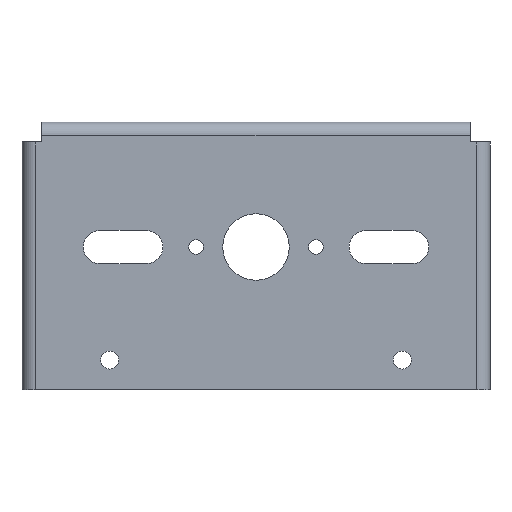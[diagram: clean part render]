
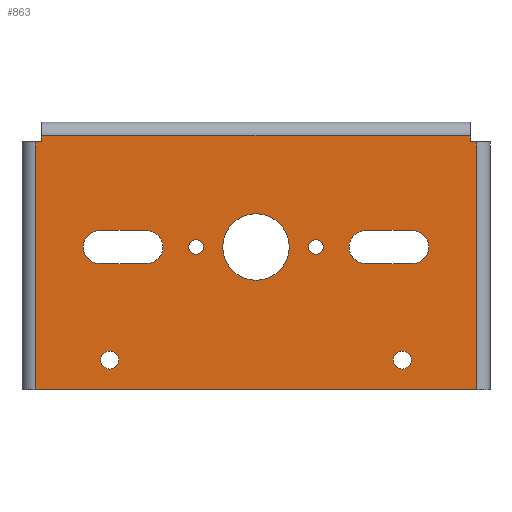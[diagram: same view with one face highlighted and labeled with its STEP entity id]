
A CAD part, left-side view. The second image highlights one B-rep face of the part: STEP entity #863.
In plain terms, the highlighted planar face has unit normal (-1, 0, 0).
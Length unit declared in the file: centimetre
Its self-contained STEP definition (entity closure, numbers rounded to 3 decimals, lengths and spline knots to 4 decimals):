
#19=FACE_BOUND('',#163,.T.);
#20=FACE_BOUND('',#164,.T.);
#21=FACE_BOUND('',#165,.T.);
#22=FACE_BOUND('',#166,.T.);
#23=FACE_BOUND('',#167,.T.);
#24=FACE_BOUND('',#168,.T.);
#25=FACE_BOUND('',#169,.T.);
#60=PLANE('',#960);
#109=FACE_OUTER_BOUND('',#162,.T.);
#162=EDGE_LOOP('',(#748,#749,#750,#751,#752,#753,#754,#755));
#163=EDGE_LOOP('',(#756,#757,#758,#759));
#164=EDGE_LOOP('',(#760));
#165=EDGE_LOOP('',(#761));
#166=EDGE_LOOP('',(#762));
#167=EDGE_LOOP('',(#763));
#168=EDGE_LOOP('',(#764));
#169=EDGE_LOOP('',(#765,#766,#767,#768));
#183=LINE('',#1232,#266);
#188=LINE('',#1246,#271);
#196=LINE('',#1286,#279);
#201=LINE('',#1300,#284);
#205=LINE('',#1314,#288);
#220=LINE('',#1350,#303);
#224=LINE('',#1361,#307);
#240=LINE('',#1402,#323);
#255=LINE('',#1438,#338);
#258=LINE('',#1443,#341);
#259=LINE('',#1444,#342);
#260=LINE('',#1445,#343);
#266=VECTOR('',#983,1.);
#271=VECTOR('',#996,1.);
#279=VECTOR('',#1042,1.);
#284=VECTOR('',#1055,1.);
#288=VECTOR('',#1069,1.);
#303=VECTOR('',#1108,1.);
#307=VECTOR('',#1116,1.);
#323=VECTOR('',#1158,1.);
#338=VECTOR('',#1197,1.);
#341=VECTOR('',#1202,1.);
#342=VECTOR('',#1203,1.);
#343=VECTOR('',#1204,1.);
#351=CIRCLE('',#890,0.25);
#353=CIRCLE('',#894,0.25);
#355=CIRCLE('',#897,0.135);
#357=CIRCLE('',#900,0.5);
#359=CIRCLE('',#903,0.135);
#361=CIRCLE('',#906,0.11);
#363=CIRCLE('',#909,0.11);
#365=CIRCLE('',#913,0.25);
#367=CIRCLE('',#917,0.25);
#385=VERTEX_POINT('',#1230);
#386=VERTEX_POINT('',#1231);
#389=VERTEX_POINT('',#1239);
#391=VERTEX_POINT('',#1245);
#393=VERTEX_POINT('',#1254);
#395=VERTEX_POINT('',#1260);
#397=VERTEX_POINT('',#1266);
#399=VERTEX_POINT('',#1272);
#401=VERTEX_POINT('',#1278);
#403=VERTEX_POINT('',#1284);
#404=VERTEX_POINT('',#1285);
#407=VERTEX_POINT('',#1293);
#409=VERTEX_POINT('',#1299);
#413=VERTEX_POINT('',#1311);
#414=VERTEX_POINT('',#1313);
#423=VERTEX_POINT('',#1349);
#427=VERTEX_POINT('',#1358);
#428=VERTEX_POINT('',#1360);
#439=VERTEX_POINT('',#1399);
#440=VERTEX_POINT('',#1401);
#449=VERTEX_POINT('',#1437);
#457=EDGE_CURVE('',#385,#386,#183,.T.);
#461=EDGE_CURVE('',#386,#389,#351,.T.);
#464=EDGE_CURVE('',#389,#391,#188,.T.);
#467=EDGE_CURVE('',#391,#385,#353,.T.);
#469=EDGE_CURVE('',#393,#393,#355,.T.);
#472=EDGE_CURVE('',#395,#395,#357,.T.);
#475=EDGE_CURVE('',#397,#397,#359,.T.);
#478=EDGE_CURVE('',#399,#399,#361,.T.);
#481=EDGE_CURVE('',#401,#401,#363,.T.);
#484=EDGE_CURVE('',#403,#404,#196,.T.);
#488=EDGE_CURVE('',#404,#407,#365,.T.);
#491=EDGE_CURVE('',#407,#409,#201,.T.);
#494=EDGE_CURVE('',#409,#403,#367,.T.);
#498=EDGE_CURVE('',#414,#413,#205,.T.);
#516=EDGE_CURVE('',#414,#423,#220,.T.);
#521=EDGE_CURVE('',#428,#427,#224,.T.);
#541=EDGE_CURVE('',#440,#439,#240,.T.);
#559=EDGE_CURVE('',#428,#449,#255,.T.);
#562=EDGE_CURVE('',#449,#413,#258,.T.);
#563=EDGE_CURVE('',#440,#427,#259,.T.);
#564=EDGE_CURVE('',#423,#439,#260,.T.);
#748=ORIENTED_EDGE('',*,*,#498,.T.);
#749=ORIENTED_EDGE('',*,*,#562,.F.);
#750=ORIENTED_EDGE('',*,*,#559,.F.);
#751=ORIENTED_EDGE('',*,*,#521,.T.);
#752=ORIENTED_EDGE('',*,*,#563,.F.);
#753=ORIENTED_EDGE('',*,*,#541,.T.);
#754=ORIENTED_EDGE('',*,*,#564,.F.);
#755=ORIENTED_EDGE('',*,*,#516,.F.);
#756=ORIENTED_EDGE('',*,*,#491,.T.);
#757=ORIENTED_EDGE('',*,*,#494,.T.);
#758=ORIENTED_EDGE('',*,*,#484,.T.);
#759=ORIENTED_EDGE('',*,*,#488,.T.);
#760=ORIENTED_EDGE('',*,*,#481,.T.);
#761=ORIENTED_EDGE('',*,*,#478,.T.);
#762=ORIENTED_EDGE('',*,*,#475,.T.);
#763=ORIENTED_EDGE('',*,*,#472,.T.);
#764=ORIENTED_EDGE('',*,*,#469,.T.);
#765=ORIENTED_EDGE('',*,*,#464,.T.);
#766=ORIENTED_EDGE('',*,*,#467,.T.);
#767=ORIENTED_EDGE('',*,*,#457,.T.);
#768=ORIENTED_EDGE('',*,*,#461,.T.);
#863=ADVANCED_FACE('',(#109,#19,#20,#21,#22,#23,#24,#25),#60,.F.);
#890=AXIS2_PLACEMENT_3D('',#1240,#989,#990);
#894=AXIS2_PLACEMENT_3D('',#1251,#1001,#1002);
#897=AXIS2_PLACEMENT_3D('',#1255,#1007,#1008);
#900=AXIS2_PLACEMENT_3D('',#1261,#1014,#1015);
#903=AXIS2_PLACEMENT_3D('',#1267,#1021,#1022);
#906=AXIS2_PLACEMENT_3D('',#1273,#1028,#1029);
#909=AXIS2_PLACEMENT_3D('',#1279,#1035,#1036);
#913=AXIS2_PLACEMENT_3D('',#1294,#1048,#1049);
#917=AXIS2_PLACEMENT_3D('',#1305,#1060,#1061);
#960=AXIS2_PLACEMENT_3D('',#1442,#1200,#1201);
#983=DIRECTION('',(0.,-1.,0.));
#989=DIRECTION('center_axis',(1.,0.,0.));
#990=DIRECTION('ref_axis',(0.,0.,1.));
#996=DIRECTION('',(0.,1.,0.));
#1001=DIRECTION('center_axis',(1.,0.,0.));
#1002=DIRECTION('ref_axis',(0.,0.,-1.));
#1007=DIRECTION('center_axis',(1.,0.,0.));
#1008=DIRECTION('ref_axis',(0.,0.,-1.));
#1014=DIRECTION('center_axis',(1.,0.,0.));
#1015=DIRECTION('ref_axis',(0.,0.,-1.));
#1021=DIRECTION('center_axis',(1.,0.,0.));
#1022=DIRECTION('ref_axis',(0.,0.,-1.));
#1028=DIRECTION('center_axis',(1.,0.,0.));
#1029=DIRECTION('ref_axis',(0.,0.,-1.));
#1035=DIRECTION('center_axis',(1.,0.,0.));
#1036=DIRECTION('ref_axis',(0.,0.,-1.));
#1042=DIRECTION('',(0.,-1.,0.));
#1048=DIRECTION('center_axis',(1.,0.,0.));
#1049=DIRECTION('ref_axis',(0.,0.,1.));
#1055=DIRECTION('',(0.,1.,0.));
#1060=DIRECTION('center_axis',(1.,0.,0.));
#1061=DIRECTION('ref_axis',(0.,0.,-1.));
#1069=DIRECTION('',(0.,1.,0.));
#1108=DIRECTION('',(0.,0.,-1.));
#1116=DIRECTION('',(0.,0.,-1.));
#1158=DIRECTION('',(0.,0.,1.));
#1197=DIRECTION('',(0.,-1.,0.));
#1200=DIRECTION('center_axis',(1.,0.,0.));
#1201=DIRECTION('ref_axis',(0.,0.,-1.));
#1202=DIRECTION('',(0.,0.,1.));
#1203=DIRECTION('',(0.,1.,0.));
#1204=DIRECTION('',(0.,-1.,0.));
#1230=CARTESIAN_POINT('',(0.115,-1.65,2.65));
#1231=CARTESIAN_POINT('',(0.115,-2.35,2.65));
#1232=CARTESIAN_POINT('',(0.115,-0.825,2.65));
#1239=CARTESIAN_POINT('',(0.115,-2.35,2.15));
#1240=CARTESIAN_POINT('Origin',(0.115,-2.35,2.4));
#1245=CARTESIAN_POINT('',(0.115,-1.65,2.15));
#1246=CARTESIAN_POINT('',(0.115,-1.175,2.15));
#1251=CARTESIAN_POINT('Origin',(0.115,-1.65,2.4));
#1254=CARTESIAN_POINT('',(0.115,-2.2,0.835));
#1255=CARTESIAN_POINT('Origin',(0.115,-2.2,0.7));
#1260=CARTESIAN_POINT('',(0.115,0.,2.9));
#1261=CARTESIAN_POINT('Origin',(0.115,0.,2.4));
#1266=CARTESIAN_POINT('',(0.115,2.2,0.835));
#1267=CARTESIAN_POINT('Origin',(0.115,2.2,0.7));
#1272=CARTESIAN_POINT('',(0.115,-0.9,2.51));
#1273=CARTESIAN_POINT('Origin',(0.115,-0.9,2.4));
#1278=CARTESIAN_POINT('',(0.115,0.9,2.51));
#1279=CARTESIAN_POINT('Origin',(0.115,0.9,2.4));
#1284=CARTESIAN_POINT('',(0.115,2.35,2.65));
#1285=CARTESIAN_POINT('',(0.115,1.65,2.65));
#1286=CARTESIAN_POINT('',(0.115,1.175,2.65));
#1293=CARTESIAN_POINT('',(0.115,1.65,2.15));
#1294=CARTESIAN_POINT('Origin',(0.115,1.65,2.4));
#1299=CARTESIAN_POINT('',(0.115,2.35,2.15));
#1300=CARTESIAN_POINT('',(0.115,0.825,2.15));
#1305=CARTESIAN_POINT('Origin',(0.115,2.35,2.4));
#1311=CARTESIAN_POINT('',(0.115,3.22,4.08));
#1313=CARTESIAN_POINT('',(0.115,-3.22,4.08));
#1314=CARTESIAN_POINT('',(0.115,1.61,4.08));
#1349=CARTESIAN_POINT('',(0.115,-3.22,3.98));
#1350=CARTESIAN_POINT('',(0.115,-3.22,4.28));
#1358=CARTESIAN_POINT('',(0.115,3.32,0.25));
#1360=CARTESIAN_POINT('',(0.115,3.32,3.98));
#1361=CARTESIAN_POINT('',(0.115,3.32,1.2575));
#1399=CARTESIAN_POINT('',(0.115,-3.32,3.98));
#1401=CARTESIAN_POINT('',(0.115,-3.32,0.25));
#1402=CARTESIAN_POINT('',(0.115,-3.32,3.1225));
#1437=CARTESIAN_POINT('',(0.115,3.22,3.98));
#1438=CARTESIAN_POINT('',(0.115,3.52,3.98));
#1442=CARTESIAN_POINT('Origin',(0.115,0.,2.265));
#1443=CARTESIAN_POINT('',(0.115,3.22,3.98));
#1444=CARTESIAN_POINT('',(0.115,-3.52,0.25));
#1445=CARTESIAN_POINT('',(0.115,-3.22,3.98));
